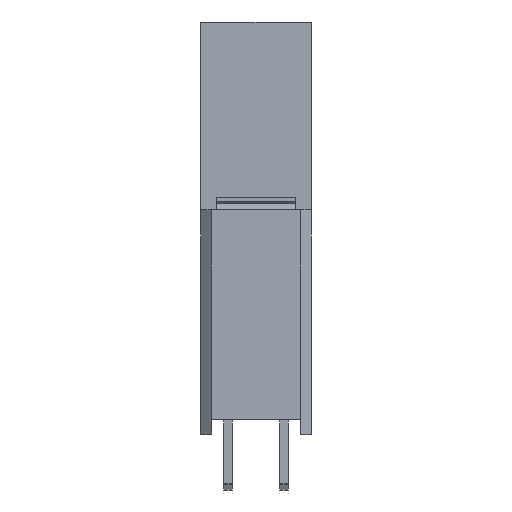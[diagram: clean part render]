
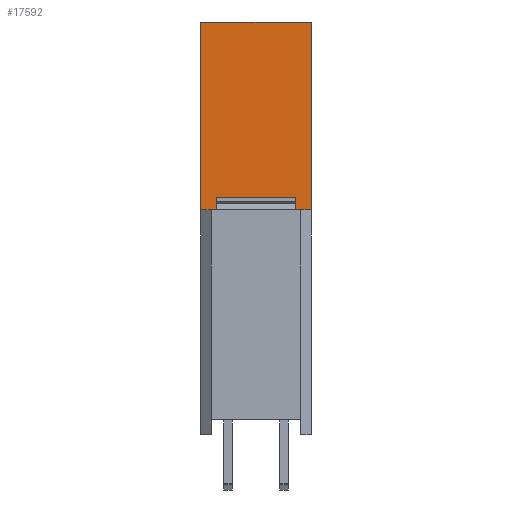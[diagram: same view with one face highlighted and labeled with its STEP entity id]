
A CAD part, left-side view. The second image highlights one B-rep face of the part: STEP entity #17592.
In plain terms, the highlighted planar face has unit normal (-1, 0, 0).
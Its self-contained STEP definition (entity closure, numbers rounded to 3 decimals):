
#489 = VERTEX_POINT ( 'NONE', #36828 ) ;
#604 = VERTEX_POINT ( 'NONE', #36896 ) ;
#3488 = CARTESIAN_POINT ( 'NONE',  ( -3.059, -1.121, 5.08 ) ) ;
#3754 = CARTESIAN_POINT ( 'NONE',  ( -3.059, 2.469, 5.08 ) ) ;
#8254 = EDGE_CURVE ( 'NONE', #42798, #604, #34779, .T. ) ;
#8447 = EDGE_CURVE ( 'NONE', #489, #42655, #35360, .T. ) ;
#9353 = PLANE ( 'NONE',  #32040 ) ;
#9355 = CARTESIAN_POINT ( 'NONE',  ( -3.059, 3.174, 13.58 ) ) ;
#9362 = FACE_OUTER_BOUND ( 'NONE', #47181, .T. ) ;
#9367 = DIRECTION ( 'NONE',  ( 1., 0., 0. ) ) ;
#9368 = DIRECTION ( 'NONE',  ( 0., 1., 0. ) ) ;
#10951 = CARTESIAN_POINT ( 'NONE',  ( -3.059, -1.826, 13.58 ) ) ;
#11008 = CARTESIAN_POINT ( 'NONE',  ( -3.059, 3.174, 5.08 ) ) ;
#12943 = EDGE_CURVE ( 'NONE', #58519, #57841, #24990, .T. ) ;
#13309 = EDGE_CURVE ( 'NONE', #57841, #58411, #23144, .T. ) ;
#15748 = LINE ( 'NONE', #15753, #22314 ) ;
#15753 = CARTESIAN_POINT ( 'NONE',  ( -3.059, 3.174, 5.65 ) ) ;
#15754 = DIRECTION ( 'NONE',  ( 0., 1., 0. ) ) ;
#15757 = LINE ( 'NONE', #15762, #22315 ) ;
#15762 = CARTESIAN_POINT ( 'NONE',  ( -3.059, 3.174, 5.08 ) ) ;
#15764 = DIRECTION ( 'NONE',  ( 0., 1., 0. ) ) ;
#15795 = LINE ( 'NONE', #15800, #22319 ) ;
#15800 = CARTESIAN_POINT ( 'NONE',  ( -3.059, -1.826, 5.08 ) ) ;
#15802 = DIRECTION ( 'NONE',  ( 0., -1., 0. ) ) ;
#16427 = EDGE_CURVE ( 'NONE', #489, #604, #15748, .T. ) ;
#16431 = EDGE_CURVE ( 'NONE', #58411, #42655, #15757, .T. ) ;
#16442 = EDGE_CURVE ( 'NONE', #57899, #42798, #15795, .T. ) ;
#17592 = ADVANCED_FACE ( 'NONE', ( #9362 ), #9353, .F. ) ;
#22314 = VECTOR ( 'NONE', #15754, 1000. ) ;
#22315 = VECTOR ( 'NONE', #15764, 1000. ) ;
#22319 = VECTOR ( 'NONE', #15802, 1000. ) ;
#23144 = LINE ( 'NONE', #23146, #53974 ) ;
#23146 = CARTESIAN_POINT ( 'NONE',  ( -3.059, -1.826, 13.58 ) ) ;
#23147 = DIRECTION ( 'NONE',  ( 0., 0., -1. ) ) ;
#24990 = LINE ( 'NONE', #24998, #36066 ) ;
#24998 = CARTESIAN_POINT ( 'NONE',  ( -3.059, -1.826, 13.58 ) ) ;
#24999 = DIRECTION ( 'NONE',  ( 0., -1., 0. ) ) ;
#29381 = VECTOR ( 'NONE', #34784, 1000. ) ;
#29760 = VECTOR ( 'NONE', #35362, 1000. ) ;
#32040 = AXIS2_PLACEMENT_3D ( 'NONE', #9355, #9367, #9368 ) ;
#34775 = CARTESIAN_POINT ( 'NONE',  ( -3.059, 2.469, 13.58 ) ) ;
#34779 = LINE ( 'NONE', #34775, #29381 ) ;
#34784 = DIRECTION ( 'NONE',  ( 0., 0., 1. ) ) ;
#35360 = LINE ( 'NONE', #35361, #29760 ) ;
#35361 = CARTESIAN_POINT ( 'NONE',  ( -3.059, -1.121, 13.58 ) ) ;
#35362 = DIRECTION ( 'NONE',  ( 0., 0., -1. ) ) ;
#35669 = CARTESIAN_POINT ( 'NONE',  ( -3.059, -1.826, 5.08 ) ) ;
#35777 = CARTESIAN_POINT ( 'NONE',  ( -3.059, 3.174, 13.58 ) ) ;
#36066 = VECTOR ( 'NONE', #24999, 1000. ) ;
#36828 = CARTESIAN_POINT ( 'NONE',  ( -3.059, -1.121, 5.65 ) ) ;
#36896 = CARTESIAN_POINT ( 'NONE',  ( -3.059, 2.469, 5.65 ) ) ;
#42655 = VERTEX_POINT ( 'NONE', #3488 ) ;
#42798 = VERTEX_POINT ( 'NONE', #3754 ) ;
#44059 = LINE ( 'NONE', #44073, #61471 ) ;
#44073 = CARTESIAN_POINT ( 'NONE',  ( -3.059, 3.174, 9.99 ) ) ;
#44078 = DIRECTION ( 'NONE',  ( 0., 0., -1. ) ) ;
#47181 = EDGE_LOOP ( 'NONE', ( #55992, #55993, #55994, #55995, #55996, #55997, #55998, #55999 ) ) ;
#53571 = EDGE_CURVE ( 'NONE', #58519, #57899, #44059, .T. ) ;
#53974 = VECTOR ( 'NONE', #23147, 1000. ) ;
#55992 = ORIENTED_EDGE ( 'NONE', *, *, #13309, .F. ) ;
#55993 = ORIENTED_EDGE ( 'NONE', *, *, #12943, .F. ) ;
#55994 = ORIENTED_EDGE ( 'NONE', *, *, #53571, .T. ) ;
#55995 = ORIENTED_EDGE ( 'NONE', *, *, #16442, .T. ) ;
#55996 = ORIENTED_EDGE ( 'NONE', *, *, #8254, .T. ) ;
#55997 = ORIENTED_EDGE ( 'NONE', *, *, #16427, .F. ) ;
#55998 = ORIENTED_EDGE ( 'NONE', *, *, #8447, .T. ) ;
#55999 = ORIENTED_EDGE ( 'NONE', *, *, #16431, .F. ) ;
#57841 = VERTEX_POINT ( 'NONE', #10951 ) ;
#57899 = VERTEX_POINT ( 'NONE', #11008 ) ;
#58411 = VERTEX_POINT ( 'NONE', #35669 ) ;
#58519 = VERTEX_POINT ( 'NONE', #35777 ) ;
#61471 = VECTOR ( 'NONE', #44078, 1000. ) ;
